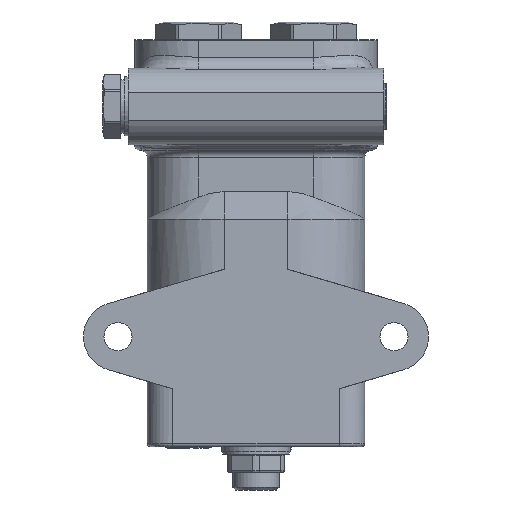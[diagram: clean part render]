
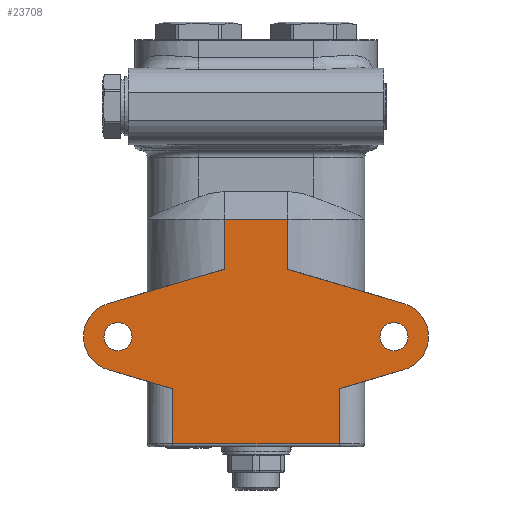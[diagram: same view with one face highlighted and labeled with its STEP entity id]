
A CAD part, front view. The second image highlights one B-rep face of the part: STEP entity #23708.
In plain terms, the highlighted planar face has unit normal (0, -1, 0).
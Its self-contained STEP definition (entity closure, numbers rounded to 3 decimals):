
#4088=CARTESIAN_POINT('',(102.0,0.,32.));
#4089=VERTEX_POINT('',#4088);
#4090=CARTESIAN_POINT('',(96.5,0.0,32.));
#4091=DIRECTION('',(0.0,1.0,0.0));
#4092=DIRECTION('',(-1.0,0.0,0.0));
#4093=AXIS2_PLACEMENT_3D('',#4090,#4091,#4092);
#4094=CIRCLE('',#4093,5.5);
#4095=EDGE_CURVE('',#4089,#4089,#4094,.T.);
#4156=CARTESIAN_POINT('',(-6.,0.,32.));
#4157=VERTEX_POINT('',#4156);
#4158=CARTESIAN_POINT('',(-11.5,0.0,32.));
#4159=DIRECTION('',(0.0,1.0,0.0));
#4160=DIRECTION('',(-1.0,0.0,0.0));
#4161=AXIS2_PLACEMENT_3D('',#4158,#4159,#4160);
#4162=CIRCLE('',#4161,5.5);
#4163=EDGE_CURVE('',#4157,#4157,#4162,.T.);
#4233=CARTESIAN_POINT('',(-15.319,0.,44.949));
#4234=VERTEX_POINT('',#4233);
#4235=CARTESIAN_POINT('',(30.,0.,58.314));
#4236=VERTEX_POINT('',#4235);
#4237=CARTESIAN_POINT('',(-15.319,0.,44.949));
#4238=DIRECTION('',(0.959,0.,0.283));
#4239=VECTOR('',#4238,47.248);
#4240=LINE('',#4237,#4239);
#4241=EDGE_CURVE('',#4234,#4236,#4240,.T.);
#4274=CARTESIAN_POINT('',(55.,0.,58.314));
#4275=VERTEX_POINT('',#4274);
#4276=CARTESIAN_POINT('',(100.319,0.,44.949));
#4277=VERTEX_POINT('',#4276);
#4278=CARTESIAN_POINT('',(55.,0.,58.314));
#4279=DIRECTION('',(0.959,0.,-0.283));
#4280=VECTOR('',#4279,47.248);
#4281=LINE('',#4278,#4280);
#4282=EDGE_CURVE('',#4275,#4277,#4281,.T.);
#4315=CARTESIAN_POINT('',(100.319,0.,19.051));
#4316=VERTEX_POINT('',#4315);
#4317=CARTESIAN_POINT('',(96.5,0.,32.));
#4318=DIRECTION('',(0.,1.0,0.));
#4319=DIRECTION('',(-0.283,0.,0.959));
#4320=AXIS2_PLACEMENT_3D('',#4317,#4318,#4319);
#4321=CIRCLE('',#4320,13.5);
#4322=EDGE_CURVE('',#4277,#4316,#4321,.T.);
#4525=CARTESIAN_POINT('',(30.05,0.,78.0));
#4526=VERTEX_POINT('',#4525);
#4540=CARTESIAN_POINT('',(54.95,0.,78.0));
#4541=VERTEX_POINT('',#4540);
#4542=CARTESIAN_POINT('',(54.95,0.,78.0));
#4543=DIRECTION('',(-1.0,0.0,0.0));
#4544=VECTOR('',#4543,24.9);
#4545=LINE('',#4542,#4544);
#4546=EDGE_CURVE('',#4541,#4526,#4545,.T.);
#4746=CARTESIAN_POINT('',(55.,0.,78.0));
#4747=VERTEX_POINT('',#4746);
#4748=CARTESIAN_POINT('',(55.,0.,78.0));
#4749=DIRECTION('',(-1.0,0.0,0.0));
#4750=VECTOR('',#4749,0.05);
#4751=LINE('',#4748,#4750);
#4752=EDGE_CURVE('',#4747,#4541,#4751,.T.);
#4909=CARTESIAN_POINT('',(30.,0.,78.0));
#4910=VERTEX_POINT('',#4909);
#4918=CARTESIAN_POINT('',(30.,30.,78.0));
#4919=DIRECTION('',(0.0,0.0,-1.0));
#4920=DIRECTION('',(-1.0,0.0,0.0));
#4921=AXIS2_PLACEMENT_3D('',#4918,#4919,#4920);
#4922=CIRCLE('',#4921,30.);
#4923=EDGE_CURVE('',#4526,#4910,#4922,.T.);
#7297=CARTESIAN_POINT('',(-15.319,0.,19.051));
#7298=VERTEX_POINT('',#7297);
#7299=CARTESIAN_POINT('',(-11.5,0.,32.));
#7300=DIRECTION('',(0.,1.0,0.));
#7301=DIRECTION('',(0.283,0.,-0.959));
#7302=AXIS2_PLACEMENT_3D('',#7299,#7300,#7301);
#7303=CIRCLE('',#7302,13.5);
#7304=EDGE_CURVE('',#7298,#4234,#7303,.T.);
#7322=CARTESIAN_POINT('',(10.,0.,11.585));
#7323=VERTEX_POINT('',#7322);
#7324=CARTESIAN_POINT('',(10.,0.,11.585));
#7325=DIRECTION('',(-0.959,0.,0.283));
#7326=VECTOR('',#7325,26.397);
#7327=LINE('',#7324,#7326);
#7328=EDGE_CURVE('',#7323,#7298,#7327,.T.);
#7355=CARTESIAN_POINT('',(75.,0.,11.585));
#7356=VERTEX_POINT('',#7355);
#7357=CARTESIAN_POINT('',(100.319,0.,19.051));
#7358=DIRECTION('',(-0.959,0.,-0.283));
#7359=VECTOR('',#7358,26.397);
#7360=LINE('',#7357,#7359);
#7361=EDGE_CURVE('',#4316,#7356,#7360,.T.);
#7469=CARTESIAN_POINT('',(55.,0.,58.314));
#7470=DIRECTION('',(0.0,0.0,1.0));
#7471=VECTOR('',#7470,19.686);
#7472=LINE('',#7469,#7471);
#7473=EDGE_CURVE('',#4275,#4747,#7472,.T.);
#7486=CARTESIAN_POINT('',(30.,0.,58.314));
#7487=DIRECTION('',(0.0,0.0,1.0));
#7488=VECTOR('',#7487,19.686);
#7489=LINE('',#7486,#7488);
#7490=EDGE_CURVE('',#4236,#4910,#7489,.T.);
#23650=CARTESIAN_POINT('',(10.,0.,-10.));
#23651=VERTEX_POINT('',#23650);
#23659=CARTESIAN_POINT('',(10.,0.,-10.));
#23660=DIRECTION('',(0.0,0.0,1.0));
#23661=VECTOR('',#23660,21.585);
#23662=LINE('',#23659,#23661);
#23663=EDGE_CURVE('',#23651,#7323,#23662,.T.);
#23669=CARTESIAN_POINT('',(75.,0.,-1.));
#23670=DIRECTION('',(0.0,-1.0,0.0));
#23671=DIRECTION('',(0.0,0.0,-1.0));
#23672=AXIS2_PLACEMENT_3D('',#23669,#23670,#23671);
#23673=PLANE('',#23672);
#23674=ORIENTED_EDGE('',*,*,#23663,.F.);
#23675=CARTESIAN_POINT('',(75.,0.,-10.));
#23676=VERTEX_POINT('',#23675);
#23677=CARTESIAN_POINT('',(75.,0.,-10.));
#23678=DIRECTION('',(-1.0,0.0,0.0));
#23679=VECTOR('',#23678,65.0);
#23680=LINE('',#23677,#23679);
#23681=EDGE_CURVE('',#23676,#23651,#23680,.T.);
#23682=ORIENTED_EDGE('',*,*,#23681,.F.);
#23683=CARTESIAN_POINT('',(75.,0.,-10.));
#23684=DIRECTION('',(0.0,0.0,1.0));
#23685=VECTOR('',#23684,21.585);
#23686=LINE('',#23683,#23685);
#23687=EDGE_CURVE('',#23676,#7356,#23686,.T.);
#23688=ORIENTED_EDGE('',*,*,#23687,.T.);
#23689=ORIENTED_EDGE('',*,*,#7361,.F.);
#23690=ORIENTED_EDGE('',*,*,#4322,.F.);
#23691=ORIENTED_EDGE('',*,*,#4282,.F.);
#23692=ORIENTED_EDGE('',*,*,#7473,.T.);
#23693=ORIENTED_EDGE('',*,*,#4752,.T.);
#23694=ORIENTED_EDGE('',*,*,#4546,.T.);
#23695=ORIENTED_EDGE('',*,*,#4923,.T.);
#23696=ORIENTED_EDGE('',*,*,#7490,.F.);
#23697=ORIENTED_EDGE('',*,*,#4241,.F.);
#23698=ORIENTED_EDGE('',*,*,#7304,.F.);
#23699=ORIENTED_EDGE('',*,*,#7328,.F.);
#23700=EDGE_LOOP('',(#23674,#23682,#23688,#23689,#23690,#23691,#23692,#23693,#23694,#23695,#23696,#23697,#23698,#23699));
#23701=FACE_OUTER_BOUND('',#23700,.T.);
#23702=ORIENTED_EDGE('',*,*,#4163,.T.);
#23703=EDGE_LOOP('',(#23702));
#23704=FACE_BOUND('',#23703,.T.);
#23705=ORIENTED_EDGE('',*,*,#4095,.T.);
#23706=EDGE_LOOP('',(#23705));
#23707=FACE_BOUND('',#23706,.T.);
#23708=ADVANCED_FACE('',(#23701,#23704,#23707),#23673,.T.);
